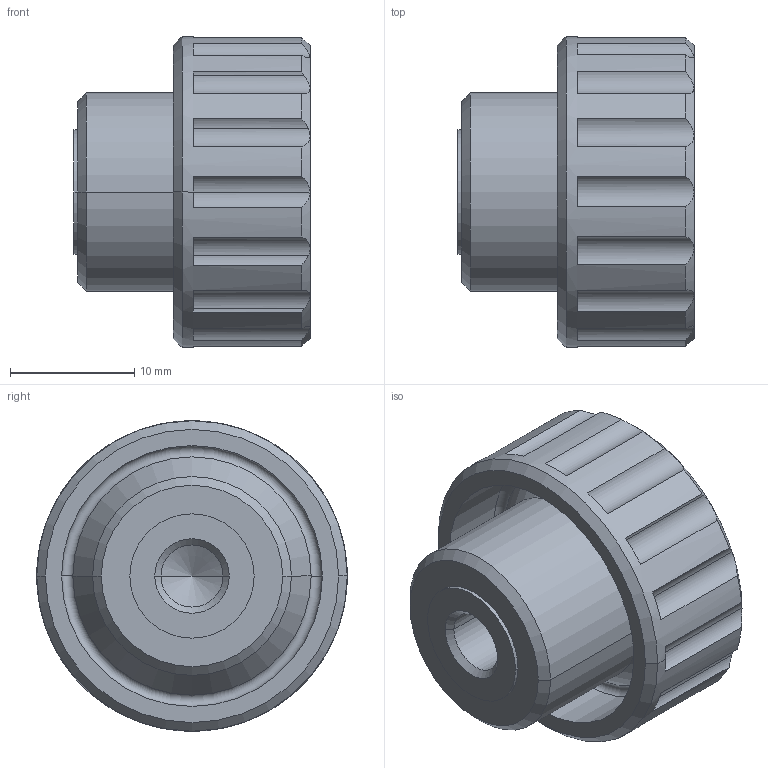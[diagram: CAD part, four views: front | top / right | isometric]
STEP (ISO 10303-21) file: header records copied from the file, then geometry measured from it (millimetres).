
FILE_DESCRIPTION (( 'STEP AP214' ), '1' );
FILE_NAME ('590-25-M6-E-ESD.step', '2025-06-16T12:57:05', ( '' ), ( '' ), 'SwSTEP 2.0', 'SolidWorks 2022', '' );
FILE_SCHEMA (( 'AUTOMOTIVE_DESIGN' ));
Length unit declared in the file: millimetre
Products named in the file (1): 590-25-M6-E-ESD
Bounding box: 19 x 25 x 25 mm (x, y, z)
Volume: 4755.2 mm3; surface area: 3063.4 mm2
Topology: 1 solids, 1 shells, 84 faces, 204 edges, 124 vertices
Faces by surface type: cylinder 33, cone 28, plane 21, torus 2
Entity records: 2776 total; most frequent: CARTESIAN_POINT 671, DIRECTION 441, ORIENTED_EDGE 404, EDGE_CURVE 202, AXIS2_PLACEMENT_3D 190, VERTEX_POINT 124, CIRCLE 105, EDGE_LOOP 88
